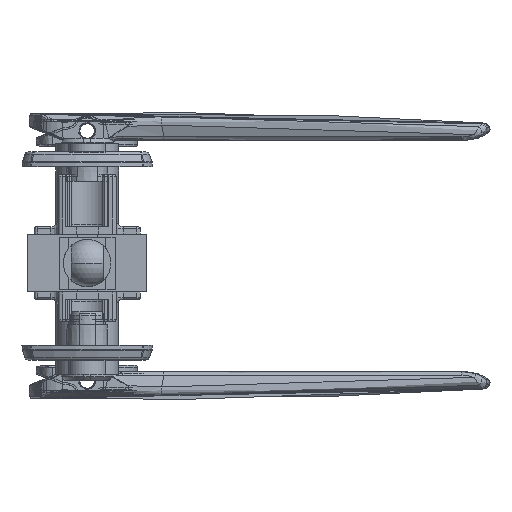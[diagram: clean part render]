
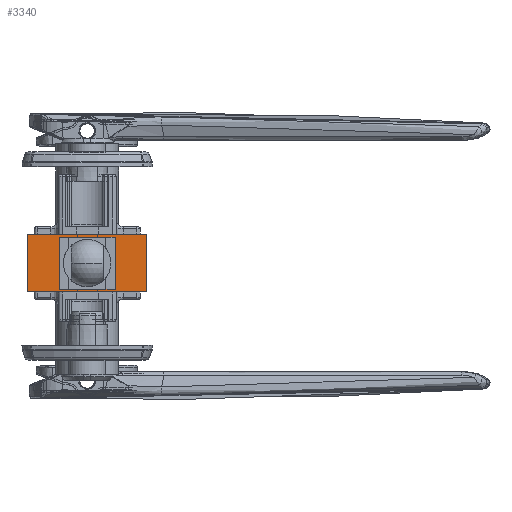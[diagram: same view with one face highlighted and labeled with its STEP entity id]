
A CAD part, front view. The second image highlights one B-rep face of the part: STEP entity #3340.
In plain terms, the highlighted planar face has unit normal (0, -1, 0).
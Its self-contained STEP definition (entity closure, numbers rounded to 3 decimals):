
#49 = VECTOR ( 'NONE', #33213, 1000. ) ;
#341 = VECTOR ( 'NONE', #13246, 1000. ) ;
#929 = VECTOR ( 'NONE', #31406, 1000. ) ;
#1759 = CARTESIAN_POINT ( 'NONE',  ( 16., -199.25, -7.75 ) ) ;
#2575 = ORIENTED_EDGE ( 'NONE', *, *, #4732, .F. ) ;
#3168 = LINE ( 'NONE', #21240, #23597 ) ;
#3340 = ADVANCED_FACE ( 'NONE', ( #40962, #47109 ), #10427, .F. ) ;
#4233 = CARTESIAN_POINT ( 'NONE',  ( 7., -199.25, 6.25 ) ) ;
#4732 = EDGE_CURVE ( 'NONE', #45137, #6755, #8105, .T. ) ;
#6755 = VERTEX_POINT ( 'NONE', #40119 ) ;
#7020 = CARTESIAN_POINT ( 'NONE',  ( -16., -199.25, -7.75 ) ) ;
#8105 = LINE ( 'NONE', #44759, #14646 ) ;
#9855 = LINE ( 'NONE', #4233, #36026 ) ;
#10427 = PLANE ( 'NONE',  #12603 ) ;
#10913 = DIRECTION ( 'NONE',  ( -1., 0., 0. ) ) ;
#12603 = AXIS2_PLACEMENT_3D ( 'NONE', #28482, #49830, #20184 ) ;
#13033 = EDGE_CURVE ( 'NONE', #20647, #53000, #23281, .T. ) ;
#13246 = DIRECTION ( 'NONE',  ( 0., 0., -1. ) ) ;
#14333 = VERTEX_POINT ( 'NONE', #53321 ) ;
#14646 = VECTOR ( 'NONE', #31162, 1000. ) ;
#15491 = ORIENTED_EDGE ( 'NONE', *, *, #18166, .F. ) ;
#16813 = EDGE_CURVE ( 'NONE', #6755, #14333, #3168, .T. ) ;
#17815 = LINE ( 'NONE', #21687, #929 ) ;
#18166 = EDGE_CURVE ( 'NONE', #14333, #22792, #9855, .T. ) ;
#19477 = CARTESIAN_POINT ( 'NONE',  ( -7., -199.25, 6.25 ) ) ;
#20024 = DIRECTION ( 'NONE',  ( 1., 0., 0. ) ) ;
#20184 = DIRECTION ( 'NONE',  ( 0., 0., 1. ) ) ;
#20647 = VERTEX_POINT ( 'NONE', #48958 ) ;
#21240 = CARTESIAN_POINT ( 'NONE',  ( -7., -199.25, -6.25 ) ) ;
#21687 = CARTESIAN_POINT ( 'NONE',  ( -16., -199.25, 7.75 ) ) ;
#22271 = EDGE_CURVE ( 'NONE', #54020, #53000, #52245, .T. ) ;
#22792 = VERTEX_POINT ( 'NONE', #30571 ) ;
#23281 = LINE ( 'NONE', #55658, #49 ) ;
#23597 = VECTOR ( 'NONE', #57261, 1000. ) ;
#23662 = ORIENTED_EDGE ( 'NONE', *, *, #57451, .F. ) ;
#26150 = EDGE_CURVE ( 'NONE', #51105, #54020, #45762, .T. ) ;
#27324 = DIRECTION ( 'NONE',  ( 0., 0., 1. ) ) ;
#28374 = ORIENTED_EDGE ( 'NONE', *, *, #26150, .T. ) ;
#28482 = CARTESIAN_POINT ( 'NONE',  ( -16., -199.25, 7.75 ) ) ;
#30571 = CARTESIAN_POINT ( 'NONE',  ( 7., -199.25, 6.25 ) ) ;
#31162 = DIRECTION ( 'NONE',  ( 0., 0., -1. ) ) ;
#31344 = EDGE_LOOP ( 'NONE', ( #45278, #33686, #52078, #28374 ) ) ;
#31406 = DIRECTION ( 'NONE',  ( 1., 0., 0. ) ) ;
#33087 = LINE ( 'NONE', #55527, #45380 ) ;
#33213 = DIRECTION ( 'NONE',  ( 0., 0., -1. ) ) ;
#33686 = ORIENTED_EDGE ( 'NONE', *, *, #13033, .F. ) ;
#34469 = ORIENTED_EDGE ( 'NONE', *, *, #16813, .F. ) ;
#36026 = VECTOR ( 'NONE', #27324, 1000. ) ;
#40119 = CARTESIAN_POINT ( 'NONE',  ( -7., -199.25, -6.25 ) ) ;
#40962 = FACE_BOUND ( 'NONE', #45532, .T. ) ;
#43441 = CARTESIAN_POINT ( 'NONE',  ( -16., -199.25, -7.75 ) ) ;
#43577 = CARTESIAN_POINT ( 'NONE',  ( -16., -199.25, 7.75 ) ) ;
#44759 = CARTESIAN_POINT ( 'NONE',  ( -7., -199.25, -6.25 ) ) ;
#45137 = VERTEX_POINT ( 'NONE', #19477 ) ;
#45278 = ORIENTED_EDGE ( 'NONE', *, *, #22271, .T. ) ;
#45380 = VECTOR ( 'NONE', #10913, 1000. ) ;
#45532 = EDGE_LOOP ( 'NONE', ( #2575, #23662, #15491, #34469 ) ) ;
#45762 = LINE ( 'NONE', #49312, #341 ) ;
#47109 = FACE_OUTER_BOUND ( 'NONE', #31344, .T. ) ;
#48958 = CARTESIAN_POINT ( 'NONE',  ( 16., -199.25, 7.75 ) ) ;
#49312 = CARTESIAN_POINT ( 'NONE',  ( -16., -199.25, 7.75 ) ) ;
#49830 = DIRECTION ( 'NONE',  ( 0., 1., 0. ) ) ;
#51105 = VERTEX_POINT ( 'NONE', #43577 ) ;
#52078 = ORIENTED_EDGE ( 'NONE', *, *, #56932, .F. ) ;
#52245 = LINE ( 'NONE', #7020, #54237 ) ;
#53000 = VERTEX_POINT ( 'NONE', #1759 ) ;
#53321 = CARTESIAN_POINT ( 'NONE',  ( 7., -199.25, -6.25 ) ) ;
#54020 = VERTEX_POINT ( 'NONE', #43441 ) ;
#54237 = VECTOR ( 'NONE', #20024, 1000. ) ;
#55527 = CARTESIAN_POINT ( 'NONE',  ( 7., -199.25, 6.25 ) ) ;
#55658 = CARTESIAN_POINT ( 'NONE',  ( 16., -199.25, 7.75 ) ) ;
#56932 = EDGE_CURVE ( 'NONE', #51105, #20647, #17815, .T. ) ;
#57261 = DIRECTION ( 'NONE',  ( 1., 0., 0. ) ) ;
#57451 = EDGE_CURVE ( 'NONE', #22792, #45137, #33087, .T. ) ;
